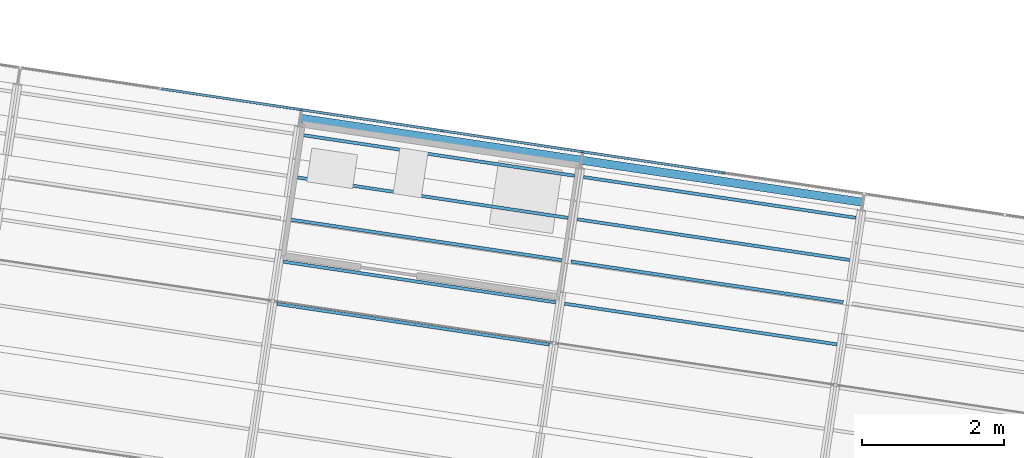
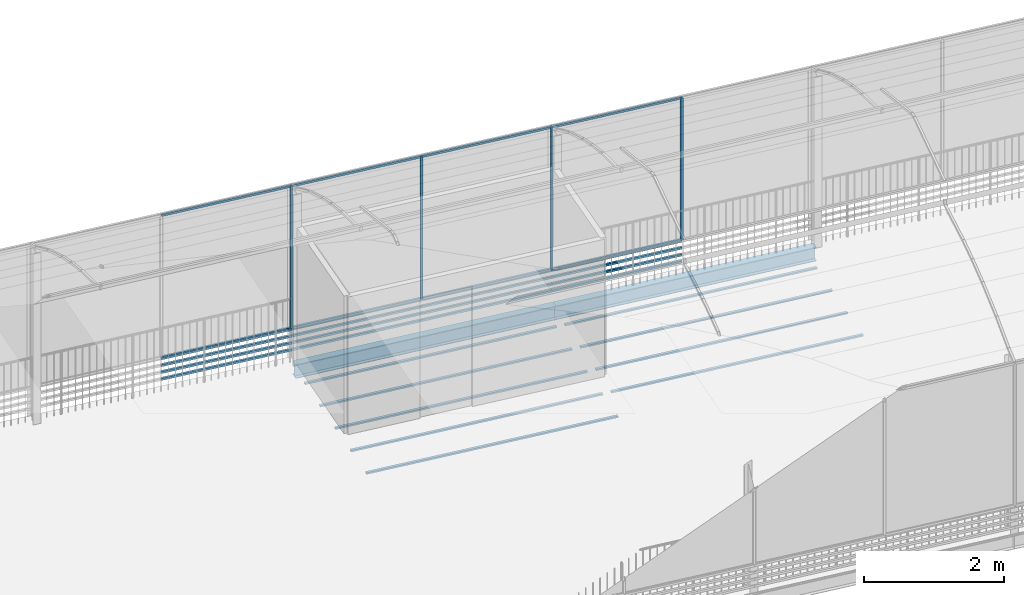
# One storey, part 9 of 34: 32 members, 11 beams.
"""IFC4 building model written with IfcOpenShell, lengths in metres."""

from ifc_helpers import new_model, si_unit, direction, frame, origin_with_axes, place, context, subcontext, project, spatial, polyline, rectangle, i_section, outline, extrude, material, material_profile, profile_set, profile_usage, type_object, element, save


model = new_model("IFC4")

# Units and contexts
model_context = context("Model", 3, precision=1e-05, world=origin_with_axes(), true_north=direction((0.0, 1.0)))
body_context = subcontext(model_context, "Body", "Model", "MODEL_VIEW")
ifc_project = project(units=[si_unit("AREAUNIT", "SQUARE_METRE"), si_unit("VOLUMEUNIT", "CUBIC_METRE"), si_unit("LENGTHUNIT", "METRE")], contexts=[model_context])

# Site, building, storey
site_placement = place(None, origin_with_axes())
site = spatial("IfcSite", under=ifc_project, at=site_placement, Name="Lares · Rua das Mercês · artigo 4771")
building_placement = place(site_placement, frame((15.0, 9.7, 14.65), z_axis=(0.0, 0.0, 1.0), x_axis=(0.989015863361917, -0.147809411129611, 0.0)))
building = spatial("IfcBuilding", under=site, at=building_placement, Name="Casa Sobreposta")
storey_placement = place(building_placement, frame((0.0, 0.0, 3.24), z_axis=(0.0, 0.0, 1.0), x_axis=(1.0, 0.0, 0.0)))
storey = spatial("IfcBuildingStorey", under=building, at=storey_placement, Name="01 · Jardim de inverno", Elevation=17.89)

# Beams
ifc_material_1 = material(Name="Aço pintado / Stahl lackiert", Category="steel")
ifc_material_profile_1 = material_profile(ifc_material_1, i_section(OverallWidth=0.12, OverallDepth=0.24, WebThickness=0.0062, FlangeThickness=0.0098))
ifc_profile_set_1 = profile_set([ifc_material_profile_1], Name="IPE240")
ifc_profile_usage_1 = profile_usage(ifc_profile_set_1)
beam_type = type_object("IfcBeamType", Name="IPE240 / steel", PredefinedType="NOTDEFINED", material=ifc_profile_set_1)
beam_1_placement = place(storey_placement, frame((8.0, 6.28, -0.152), z_axis=(1.0, 0.0, 0.0), x_axis=(0.0, -1.0, 0.0)))
element("IfcBeam", 1, at=beam_1_placement, inside=storey, type_object=beam_type, material=ifc_profile_usage_1, Name="Viga longitudinal 8 / 6.28", context=body_context, shape_type="SweptSolid", body=[
    extrude(i_section(OverallWidth=0.12, OverallDepth=0.24, WebThickness=0.0062, FlangeThickness=0.0098), origin_with_axes(), (0.0, 0.0, 1.0), 4.0),
])
ifc_profile_usage_2 = profile_usage(ifc_profile_set_1)
beam_2_placement = place(storey_placement, frame((12.0, 6.28, -0.152), z_axis=(1.0, 0.0, 0.0), x_axis=(0.0, -1.0, 0.0)))
element("IfcBeam", 2, at=beam_2_placement, inside=storey, type_object=beam_type, material=ifc_profile_usage_2, Name="Viga longitudinal 12 / 6.28", context=body_context, shape_type="SweptSolid", body=[
    extrude(i_section(OverallWidth=0.12, OverallDepth=0.24, WebThickness=0.0062, FlangeThickness=0.0098), origin_with_axes(), (0.0, 0.0, 1.0), 4.0),
])

# Members
ifc_material_profile_2 = material_profile(ifc_material_1, rectangle(XDim=0.035, YDim=0.035))
ifc_profile_set_2 = profile_set([ifc_material_profile_2], Name="R0.035")
ifc_profile_usage_3 = profile_usage(ifc_profile_set_2)
member_type = type_object("IfcMemberType", Name="R0.035 / steel", PredefinedType="NOTDEFINED", material=ifc_profile_set_2)
member_1_placement = place(storey_placement, frame((8.0, 6.4, 0.5), z_axis=(0.0, 0.0, 1.0), x_axis=(1.0, 0.0, 0.0)))
element("IfcMember", 3, at=member_1_placement, inside=storey, type_object=member_type, material=ifc_profile_usage_3, context=body_context, shape_type="SweptSolid", body=[
    extrude(rectangle(XDim=0.035, YDim=0.035), origin_with_axes(), (0.0, 0.0, 1.0), 2.48),
])
ifc_profile_usage_4 = profile_usage(ifc_profile_set_2)
member_2_placement = place(storey_placement, frame((6.0, 6.4, 0.5), z_axis=(1.0, 0.0, 0.0), x_axis=(0.0, -1.0, 0.0)))
element("IfcMember", 4, at=member_2_placement, inside=storey, type_object=member_type, material=ifc_profile_usage_4, Name="Estufa norte 4 · travessa", context=body_context, shape_type="SweptSolid", body=[
    extrude(rectangle(XDim=0.035, YDim=0.035), origin_with_axes(), (0.0, 0.0, 1.0), 2.0),
])
ifc_profile_usage_5 = profile_usage(ifc_profile_set_2)
member_3_placement = place(storey_placement, frame((6.0, 6.4, 2.98), z_axis=(1.0, 0.0, 0.0), x_axis=(0.0, -1.0, 0.0)))
element("IfcMember", 5, at=member_3_placement, inside=storey, type_object=member_type, material=ifc_profile_usage_5, Name="Estufa norte 4 · travessa", context=body_context, shape_type="SweptSolid", body=[
    extrude(rectangle(XDim=0.035, YDim=0.035), origin_with_axes(), (0.0, 0.0, 1.0), 2.0),
])
ifc_profile_usage_6 = profile_usage(ifc_profile_set_2)
member_4_placement = place(storey_placement, frame((6.0, 6.4, 0.12), z_axis=(1.0, 0.0, 0.0), x_axis=(0.0, -1.0, 0.0)))
element("IfcMember", 6, at=member_4_placement, inside=storey, type_object=member_type, material=ifc_profile_usage_6, Name="Entrada de ar norte 4", context=body_context, shape_type="SweptSolid", body=[
    extrude(rectangle(XDim=0.035, YDim=0.035), origin_with_axes(), (0.0, 0.0, 1.0), 2.0),
])
ifc_profile_usage_7 = profile_usage(ifc_profile_set_2)
member_5_placement = place(storey_placement, frame((6.0, 6.4, 0.24), z_axis=(1.0, 0.0, 0.0), x_axis=(0.0, -1.0, 0.0)))
element("IfcMember", 7, at=member_5_placement, inside=storey, type_object=member_type, material=ifc_profile_usage_7, Name="Entrada de ar norte 4", context=body_context, shape_type="SweptSolid", body=[
    extrude(rectangle(XDim=0.035, YDim=0.035), origin_with_axes(), (0.0, 0.0, 1.0), 2.0),
])
ifc_profile_usage_8 = profile_usage(ifc_profile_set_2)
member_6_placement = place(storey_placement, frame((6.0, 6.4, 0.36), z_axis=(1.0, 0.0, 0.0), x_axis=(0.0, -1.0, 0.0)))
element("IfcMember", 8, at=member_6_placement, inside=storey, type_object=member_type, material=ifc_profile_usage_8, Name="Entrada de ar norte 4", context=body_context, shape_type="SweptSolid", body=[
    extrude(rectangle(XDim=0.035, YDim=0.035), origin_with_axes(), (0.0, 0.0, 1.0), 2.0),
])
ifc_profile_usage_9 = profile_usage(ifc_profile_set_2)
member_7_placement = place(storey_placement, frame((6.0, 6.4, 0.48), z_axis=(1.0, 0.0, 0.0), x_axis=(0.0, -1.0, 0.0)))
element("IfcMember", 9, at=member_7_placement, inside=storey, type_object=member_type, material=ifc_profile_usage_9, Name="Entrada de ar norte 4", context=body_context, shape_type="SweptSolid", body=[
    extrude(rectangle(XDim=0.035, YDim=0.035), origin_with_axes(), (0.0, 0.0, 1.0), 2.0),
])
ifc_profile_usage_10 = profile_usage(ifc_profile_set_2)
member_8_placement = place(storey_placement, frame((8.0, 6.4, 0.5), z_axis=(0.0, 0.0, 1.0), x_axis=(1.0, 0.0, 0.0)))
element("IfcMember", 10, at=member_8_placement, inside=storey, type_object=member_type, material=ifc_profile_usage_10, context=body_context, shape_type="SweptSolid", body=[
    extrude(rectangle(XDim=0.035, YDim=0.035), origin_with_axes(), (0.0, 0.0, 1.0), 2.48),
])
ifc_profile_usage_11 = profile_usage(ifc_profile_set_2)
member_9_placement = place(storey_placement, frame((10.0, 6.4, 0.5), z_axis=(0.0, 0.0, 1.0), x_axis=(1.0, 0.0, 0.0)))
element("IfcMember", 11, at=member_9_placement, inside=storey, type_object=member_type, material=ifc_profile_usage_11, context=body_context, shape_type="SweptSolid", body=[
    extrude(rectangle(XDim=0.035, YDim=0.035), origin_with_axes(), (0.0, 0.0, 1.0), 2.48),
])
ifc_profile_usage_12 = profile_usage(ifc_profile_set_2)
member_10_placement = place(storey_placement, frame((8.0, 6.4, 0.5), z_axis=(1.0, 0.0, 0.0), x_axis=(0.0, -1.0, 0.0)))
element("IfcMember", 12, at=member_10_placement, inside=storey, type_object=member_type, material=ifc_profile_usage_12, Name="Estufa norte 5 · travessa", context=body_context, shape_type="SweptSolid", body=[
    extrude(rectangle(XDim=0.035, YDim=0.035), origin_with_axes(), (0.0, 0.0, 1.0), 2.0),
])
ifc_profile_usage_13 = profile_usage(ifc_profile_set_2)
member_11_placement = place(storey_placement, frame((8.0, 6.4, 2.98), z_axis=(1.0, 0.0, 0.0), x_axis=(0.0, -1.0, 0.0)))
element("IfcMember", 13, at=member_11_placement, inside=storey, type_object=member_type, material=ifc_profile_usage_13, Name="Estufa norte 5 · travessa", context=body_context, shape_type="SweptSolid", body=[
    extrude(rectangle(XDim=0.035, YDim=0.035), origin_with_axes(), (0.0, 0.0, 1.0), 2.0),
])
ifc_profile_usage_14 = profile_usage(ifc_profile_set_2)
member_12_placement = place(storey_placement, frame((8.0, 6.4, 0.12), z_axis=(1.0, 0.0, 0.0), x_axis=(0.0, -1.0, 0.0)))
element("IfcMember", 14, at=member_12_placement, inside=storey, type_object=member_type, material=ifc_profile_usage_14, Name="Entrada de ar norte 5", context=body_context, shape_type="SweptSolid", body=[
    extrude(rectangle(XDim=0.035, YDim=0.035), origin_with_axes(), (0.0, 0.0, 1.0), 2.0),
])
ifc_profile_usage_15 = profile_usage(ifc_profile_set_2)
member_13_placement = place(storey_placement, frame((8.0, 6.4, 0.24), z_axis=(1.0, 0.0, 0.0), x_axis=(0.0, -1.0, 0.0)))
element("IfcMember", 15, at=member_13_placement, inside=storey, type_object=member_type, material=ifc_profile_usage_15, Name="Entrada de ar norte 5", context=body_context, shape_type="SweptSolid", body=[
    extrude(rectangle(XDim=0.035, YDim=0.035), origin_with_axes(), (0.0, 0.0, 1.0), 2.0),
])
ifc_profile_usage_16 = profile_usage(ifc_profile_set_2)
member_14_placement = place(storey_placement, frame((8.0, 6.4, 0.36), z_axis=(1.0, 0.0, 0.0), x_axis=(0.0, -1.0, 0.0)))
element("IfcMember", 16, at=member_14_placement, inside=storey, type_object=member_type, material=ifc_profile_usage_16, Name="Entrada de ar norte 5", context=body_context, shape_type="SweptSolid", body=[
    extrude(rectangle(XDim=0.035, YDim=0.035), origin_with_axes(), (0.0, 0.0, 1.0), 2.0),
])
ifc_profile_usage_17 = profile_usage(ifc_profile_set_2)
member_15_placement = place(storey_placement, frame((8.0, 6.4, 0.48), z_axis=(1.0, 0.0, 0.0), x_axis=(0.0, -1.0, 0.0)))
element("IfcMember", 17, at=member_15_placement, inside=storey, type_object=member_type, material=ifc_profile_usage_17, Name="Entrada de ar norte 5", context=body_context, shape_type="SweptSolid", body=[
    extrude(rectangle(XDim=0.035, YDim=0.035), origin_with_axes(), (0.0, 0.0, 1.0), 2.0),
])
ifc_profile_usage_18 = profile_usage(ifc_profile_set_2)
member_16_placement = place(storey_placement, frame((10.0, 6.4, 0.5), z_axis=(0.0, 0.0, 1.0), x_axis=(1.0, 0.0, 0.0)))
element("IfcMember", 18, at=member_16_placement, inside=storey, type_object=member_type, material=ifc_profile_usage_18, context=body_context, shape_type="SweptSolid", body=[
    extrude(rectangle(XDim=0.035, YDim=0.035), origin_with_axes(), (0.0, 0.0, 1.0), 2.48),
])
ifc_profile_usage_19 = profile_usage(ifc_profile_set_2)
member_17_placement = place(storey_placement, frame((12.0, 6.4, 0.5), z_axis=(0.0, 0.0, 1.0), x_axis=(1.0, 0.0, 0.0)))
element("IfcMember", 19, at=member_17_placement, inside=storey, type_object=member_type, material=ifc_profile_usage_19, context=body_context, shape_type="SweptSolid", body=[
    extrude(rectangle(XDim=0.035, YDim=0.035), origin_with_axes(), (0.0, 0.0, 1.0), 2.48),
])
ifc_profile_usage_20 = profile_usage(ifc_profile_set_2)
member_18_placement = place(storey_placement, frame((10.0, 6.4, 0.5), z_axis=(1.0, 0.0, 0.0), x_axis=(0.0, -1.0, 0.0)))
element("IfcMember", 20, at=member_18_placement, inside=storey, type_object=member_type, material=ifc_profile_usage_20, Name="Estufa norte 6 · travessa", context=body_context, shape_type="SweptSolid", body=[
    extrude(rectangle(XDim=0.035, YDim=0.035), origin_with_axes(), (0.0, 0.0, 1.0), 2.0),
])
ifc_profile_usage_21 = profile_usage(ifc_profile_set_2)
member_19_placement = place(storey_placement, frame((10.0, 6.4, 2.98), z_axis=(1.0, 0.0, 0.0), x_axis=(0.0, -1.0, 0.0)))
element("IfcMember", 21, at=member_19_placement, inside=storey, type_object=member_type, material=ifc_profile_usage_21, Name="Estufa norte 6 · travessa", context=body_context, shape_type="SweptSolid", body=[
    extrude(rectangle(XDim=0.035, YDim=0.035), origin_with_axes(), (0.0, 0.0, 1.0), 2.0),
])
ifc_profile_usage_22 = profile_usage(ifc_profile_set_2)
member_20_placement = place(storey_placement, frame((10.0, 6.4, 0.12), z_axis=(1.0, 0.0, 0.0), x_axis=(0.0, -1.0, 0.0)))
element("IfcMember", 22, at=member_20_placement, inside=storey, type_object=member_type, material=ifc_profile_usage_22, Name="Entrada de ar norte 6", context=body_context, shape_type="SweptSolid", body=[
    extrude(rectangle(XDim=0.035, YDim=0.035), origin_with_axes(), (0.0, 0.0, 1.0), 2.0),
])
ifc_profile_usage_23 = profile_usage(ifc_profile_set_2)
member_21_placement = place(storey_placement, frame((10.0, 6.4, 0.24), z_axis=(1.0, 0.0, 0.0), x_axis=(0.0, -1.0, 0.0)))
element("IfcMember", 23, at=member_21_placement, inside=storey, type_object=member_type, material=ifc_profile_usage_23, Name="Entrada de ar norte 6", context=body_context, shape_type="SweptSolid", body=[
    extrude(rectangle(XDim=0.035, YDim=0.035), origin_with_axes(), (0.0, 0.0, 1.0), 2.0),
])
ifc_profile_usage_24 = profile_usage(ifc_profile_set_2)
member_22_placement = place(storey_placement, frame((10.0, 6.4, 0.36), z_axis=(1.0, 0.0, 0.0), x_axis=(0.0, -1.0, 0.0)))
element("IfcMember", 24, at=member_22_placement, inside=storey, type_object=member_type, material=ifc_profile_usage_24, Name="Entrada de ar norte 6", context=body_context, shape_type="SweptSolid", body=[
    extrude(rectangle(XDim=0.035, YDim=0.035), origin_with_axes(), (0.0, 0.0, 1.0), 2.0),
])
ifc_profile_usage_25 = profile_usage(ifc_profile_set_2)
member_23_placement = place(storey_placement, frame((10.0, 6.4, 0.48), z_axis=(1.0, 0.0, 0.0), x_axis=(0.0, -1.0, 0.0)))
element("IfcMember", 25, at=member_23_placement, inside=storey, type_object=member_type, material=ifc_profile_usage_25, Name="Entrada de ar norte 6", context=body_context, shape_type="SweptSolid", body=[
    extrude(rectangle(XDim=0.035, YDim=0.035), origin_with_axes(), (0.0, 0.0, 1.0), 2.0),
])
ifc_profile_usage_26 = profile_usage(ifc_profile_set_2)
member_24_placement = place(storey_placement, frame((12.0, 6.4, 0.5), z_axis=(0.0, 0.0, 1.0), x_axis=(1.0, 0.0, 0.0)))
element("IfcMember", 26, at=member_24_placement, inside=storey, type_object=member_type, material=ifc_profile_usage_26, context=body_context, shape_type="SweptSolid", body=[
    extrude(rectangle(XDim=0.035, YDim=0.035), origin_with_axes(), (0.0, 0.0, 1.0), 2.48),
])
ifc_profile_usage_27 = profile_usage(ifc_profile_set_2)
member_25_placement = place(storey_placement, frame((14.0, 6.4, 0.5), z_axis=(0.0, 0.0, 1.0), x_axis=(1.0, 0.0, 0.0)))
element("IfcMember", 27, at=member_25_placement, inside=storey, type_object=member_type, material=ifc_profile_usage_27, context=body_context, shape_type="SweptSolid", body=[
    extrude(rectangle(XDim=0.035, YDim=0.035), origin_with_axes(), (0.0, 0.0, 1.0), 2.48),
])
ifc_profile_usage_28 = profile_usage(ifc_profile_set_2)
member_26_placement = place(storey_placement, frame((12.0, 6.4, 0.5), z_axis=(1.0, 0.0, 0.0), x_axis=(0.0, -1.0, 0.0)))
element("IfcMember", 28, at=member_26_placement, inside=storey, type_object=member_type, material=ifc_profile_usage_28, Name="Estufa norte 7 · travessa", context=body_context, shape_type="SweptSolid", body=[
    extrude(rectangle(XDim=0.035, YDim=0.035), origin_with_axes(), (0.0, 0.0, 1.0), 2.0),
])
ifc_profile_usage_29 = profile_usage(ifc_profile_set_2)
member_27_placement = place(storey_placement, frame((12.0, 6.4, 2.98), z_axis=(1.0, 0.0, 0.0), x_axis=(0.0, -1.0, 0.0)))
element("IfcMember", 29, at=member_27_placement, inside=storey, type_object=member_type, material=ifc_profile_usage_29, Name="Estufa norte 7 · travessa", context=body_context, shape_type="SweptSolid", body=[
    extrude(rectangle(XDim=0.035, YDim=0.035), origin_with_axes(), (0.0, 0.0, 1.0), 2.0),
])
ifc_profile_usage_30 = profile_usage(ifc_profile_set_2)
member_28_placement = place(storey_placement, frame((12.0, 6.4, 0.12), z_axis=(1.0, 0.0, 0.0), x_axis=(0.0, -1.0, 0.0)))
element("IfcMember", 30, at=member_28_placement, inside=storey, type_object=member_type, material=ifc_profile_usage_30, Name="Entrada de ar norte 7", context=body_context, shape_type="SweptSolid", body=[
    extrude(rectangle(XDim=0.035, YDim=0.035), origin_with_axes(), (0.0, 0.0, 1.0), 2.0),
])
ifc_profile_usage_31 = profile_usage(ifc_profile_set_2)
member_29_placement = place(storey_placement, frame((12.0, 6.4, 0.24), z_axis=(1.0, 0.0, 0.0), x_axis=(0.0, -1.0, 0.0)))
element("IfcMember", 31, at=member_29_placement, inside=storey, type_object=member_type, material=ifc_profile_usage_31, Name="Entrada de ar norte 7", context=body_context, shape_type="SweptSolid", body=[
    extrude(rectangle(XDim=0.035, YDim=0.035), origin_with_axes(), (0.0, 0.0, 1.0), 2.0),
])
ifc_profile_usage_32 = profile_usage(ifc_profile_set_2)
member_30_placement = place(storey_placement, frame((12.0, 6.4, 0.36), z_axis=(1.0, 0.0, 0.0), x_axis=(0.0, -1.0, 0.0)))
element("IfcMember", 32, at=member_30_placement, inside=storey, type_object=member_type, material=ifc_profile_usage_32, Name="Entrada de ar norte 7", context=body_context, shape_type="SweptSolid", body=[
    extrude(rectangle(XDim=0.035, YDim=0.035), origin_with_axes(), (0.0, 0.0, 1.0), 2.0),
])
ifc_profile_usage_33 = profile_usage(ifc_profile_set_2)
member_31_placement = place(storey_placement, frame((12.0, 6.4, 0.48), z_axis=(1.0, 0.0, 0.0), x_axis=(0.0, -1.0, 0.0)))
element("IfcMember", 33, at=member_31_placement, inside=storey, type_object=member_type, material=ifc_profile_usage_33, Name="Entrada de ar norte 7", context=body_context, shape_type="SweptSolid", body=[
    extrude(rectangle(XDim=0.035, YDim=0.035), origin_with_axes(), (0.0, 0.0, 1.0), 2.0),
])
ifc_profile_usage_34 = profile_usage(ifc_profile_set_2)
member_32_placement = place(storey_placement, frame((14.0, 6.4, 0.5), z_axis=(0.0, 0.0, 1.0), x_axis=(1.0, 0.0, 0.0)))
element("IfcMember", 34, at=member_32_placement, inside=storey, type_object=member_type, material=ifc_profile_usage_34, context=body_context, shape_type="SweptSolid", body=[
    extrude(rectangle(XDim=0.035, YDim=0.035), origin_with_axes(), (0.0, 0.0, 1.0), 2.48),
])

# Beams
ifc_material_2 = material(Name="Madeira / Bauholz", Category="wood")
ifc_material_profile_3 = material_profile(ifc_material_2, outline(polyline([(0.022225, -0.12), (0.022225, -0.092), (-0.022225, -0.092), (-0.022225, -0.12), (0.022225, -0.12)])))
ifc_material_3 = material(Name="OSB", Category="wood")
ifc_material_profile_4 = material_profile(ifc_material_3, outline(polyline([(0.0047625, -0.092), (0.0047625, 0.092), (-0.0047625, 0.092), (-0.0047625, -0.092), (0.0047625, -0.092)])))
ifc_material_profile_5 = material_profile(ifc_material_2, outline(polyline([(0.022225, 0.092), (0.022225, 0.12), (-0.022225, 0.12), (-0.022225, 0.092), (0.022225, 0.092)])))
ifc_profile_set_3 = profile_set([ifc_material_profile_3, ifc_material_profile_4, ifc_material_profile_5], Name="TJI240 · madeira / OSB")
ifc_profile_usage_35 = profile_usage(ifc_profile_set_3)
beam_3_placement = place(storey_placement, frame((8.065, 3.65, -0.152), z_axis=(1.0, 0.0, 0.0), x_axis=(0.0, 1.0, 0.0)))
element("IfcBeam", 35, at=beam_3_placement, inside=storey, material=ifc_profile_usage_35, Name="TJI240 · 8.065 / 3.65", context=body_context, shape_type="SweptSolid", body=[
    extrude(outline(polyline([(0.022225, -0.12), (0.022225, -0.092), (-0.022225, -0.092), (-0.022225, -0.12), (0.022225, -0.12)])), origin_with_axes(), (0.0, 0.0, 1.0), 3.87),
    extrude(outline(polyline([(0.022225, -0.12), (0.022225, -0.092), (-0.022225, -0.092), (-0.022225, -0.12), (0.022225, -0.12)])), origin_with_axes(), (0.0, 0.0, 1.0), 3.87),
    extrude(outline(polyline([(0.022225, -0.12), (0.022225, -0.092), (-0.022225, -0.092), (-0.022225, -0.12), (0.022225, -0.12)])), origin_with_axes(), (0.0, 0.0, 1.0), 3.87),
])
ifc_material_profile_6 = material_profile(ifc_material_2, outline(polyline([(0.022225, -0.12), (0.022225, -0.092), (-0.022225, -0.092), (-0.022225, -0.12), (0.022225, -0.12)])))
ifc_material_profile_7 = material_profile(ifc_material_3, outline(polyline([(0.0047625, -0.092), (0.0047625, 0.092), (-0.0047625, 0.092), (-0.0047625, -0.092), (0.0047625, -0.092)])))
ifc_material_profile_8 = material_profile(ifc_material_2, outline(polyline([(0.022225, 0.092), (0.022225, 0.12), (-0.022225, 0.12), (-0.022225, 0.092), (0.022225, 0.092)])))
ifc_profile_set_4 = profile_set([ifc_material_profile_6, ifc_material_profile_7, ifc_material_profile_8], Name="TJI240 · madeira / OSB")
ifc_profile_usage_36 = profile_usage(ifc_profile_set_4)
beam_4_placement = place(storey_placement, frame((8.065, 4.25, -0.152), z_axis=(1.0, 0.0, 0.0), x_axis=(0.0, 1.0, 0.0)))
element("IfcBeam", 36, at=beam_4_placement, inside=storey, material=ifc_profile_usage_36, Name="TJI240 · 8.065 / 4.25", context=body_context, shape_type="SweptSolid", body=[
    extrude(outline(polyline([(0.022225, -0.12), (0.022225, -0.092), (-0.022225, -0.092), (-0.022225, -0.12), (0.022225, -0.12)])), origin_with_axes(), (0.0, 0.0, 1.0), 3.87),
    extrude(outline(polyline([(0.022225, -0.12), (0.022225, -0.092), (-0.022225, -0.092), (-0.022225, -0.12), (0.022225, -0.12)])), origin_with_axes(), (0.0, 0.0, 1.0), 3.87),
    extrude(outline(polyline([(0.022225, -0.12), (0.022225, -0.092), (-0.022225, -0.092), (-0.022225, -0.12), (0.022225, -0.12)])), origin_with_axes(), (0.0, 0.0, 1.0), 3.87),
])
ifc_material_profile_9 = material_profile(ifc_material_2, outline(polyline([(0.022225, -0.12), (0.022225, -0.092), (-0.022225, -0.092), (-0.022225, -0.12), (0.022225, -0.12)])))
ifc_material_profile_10 = material_profile(ifc_material_3, outline(polyline([(0.0047625, -0.092), (0.0047625, 0.092), (-0.0047625, 0.092), (-0.0047625, -0.092), (0.0047625, -0.092)])))
ifc_material_profile_11 = material_profile(ifc_material_2, outline(polyline([(0.022225, 0.092), (0.022225, 0.12), (-0.022225, 0.12), (-0.022225, 0.092), (0.022225, 0.092)])))
ifc_profile_set_5 = profile_set([ifc_material_profile_9, ifc_material_profile_10, ifc_material_profile_11], Name="TJI240 · madeira / OSB")
ifc_profile_usage_37 = profile_usage(ifc_profile_set_5)
beam_5_placement = place(storey_placement, frame((12.065, 4.25, -0.152), z_axis=(1.0, 0.0, 0.0), x_axis=(0.0, 1.0, 0.0)))
element("IfcBeam", 37, at=beam_5_placement, inside=storey, material=ifc_profile_usage_37, Name="TJI240 · 12.065 / 4.25", context=body_context, shape_type="SweptSolid", body=[
    extrude(outline(polyline([(0.022225, -0.12), (0.022225, -0.092), (-0.022225, -0.092), (-0.022225, -0.12), (0.022225, -0.12)])), origin_with_axes(), (0.0, 0.0, 1.0), 3.87),
    extrude(outline(polyline([(0.022225, -0.12), (0.022225, -0.092), (-0.022225, -0.092), (-0.022225, -0.12), (0.022225, -0.12)])), origin_with_axes(), (0.0, 0.0, 1.0), 3.87),
    extrude(outline(polyline([(0.022225, -0.12), (0.022225, -0.092), (-0.022225, -0.092), (-0.022225, -0.12), (0.022225, -0.12)])), origin_with_axes(), (0.0, 0.0, 1.0), 3.87),
])
ifc_material_profile_12 = material_profile(ifc_material_2, outline(polyline([(0.022225, -0.12), (0.022225, -0.092), (-0.022225, -0.092), (-0.022225, -0.12), (0.022225, -0.12)])))
ifc_material_profile_13 = material_profile(ifc_material_3, outline(polyline([(0.0047625, -0.092), (0.0047625, 0.092), (-0.0047625, 0.092), (-0.0047625, -0.092), (0.0047625, -0.092)])))
ifc_material_profile_14 = material_profile(ifc_material_2, outline(polyline([(0.022225, 0.092), (0.022225, 0.12), (-0.022225, 0.12), (-0.022225, 0.092), (0.022225, 0.092)])))
ifc_profile_set_6 = profile_set([ifc_material_profile_12, ifc_material_profile_13, ifc_material_profile_14], Name="TJI240 · madeira / OSB")
ifc_profile_usage_38 = profile_usage(ifc_profile_set_6)
beam_6_placement = place(storey_placement, frame((8.065, 4.85, -0.152), z_axis=(1.0, 0.0, 0.0), x_axis=(0.0, 1.0, 0.0)))
element("IfcBeam", 38, at=beam_6_placement, inside=storey, material=ifc_profile_usage_38, Name="TJI240 · 8.065 / 4.85", context=body_context, shape_type="SweptSolid", body=[
    extrude(outline(polyline([(0.022225, -0.12), (0.022225, -0.092), (-0.022225, -0.092), (-0.022225, -0.12), (0.022225, -0.12)])), origin_with_axes(), (0.0, 0.0, 1.0), 3.87),
    extrude(outline(polyline([(0.022225, -0.12), (0.022225, -0.092), (-0.022225, -0.092), (-0.022225, -0.12), (0.022225, -0.12)])), origin_with_axes(), (0.0, 0.0, 1.0), 3.87),
    extrude(outline(polyline([(0.022225, -0.12), (0.022225, -0.092), (-0.022225, -0.092), (-0.022225, -0.12), (0.022225, -0.12)])), origin_with_axes(), (0.0, 0.0, 1.0), 3.87),
])
ifc_material_profile_15 = material_profile(ifc_material_2, outline(polyline([(0.022225, -0.12), (0.022225, -0.092), (-0.022225, -0.092), (-0.022225, -0.12), (0.022225, -0.12)])))
ifc_material_profile_16 = material_profile(ifc_material_3, outline(polyline([(0.0047625, -0.092), (0.0047625, 0.092), (-0.0047625, 0.092), (-0.0047625, -0.092), (0.0047625, -0.092)])))
ifc_material_profile_17 = material_profile(ifc_material_2, outline(polyline([(0.022225, 0.092), (0.022225, 0.12), (-0.022225, 0.12), (-0.022225, 0.092), (0.022225, 0.092)])))
ifc_profile_set_7 = profile_set([ifc_material_profile_15, ifc_material_profile_16, ifc_material_profile_17], Name="TJI240 · madeira / OSB")
ifc_profile_usage_39 = profile_usage(ifc_profile_set_7)
beam_7_placement = place(storey_placement, frame((12.065, 4.85, -0.152), z_axis=(1.0, 0.0, 0.0), x_axis=(0.0, 1.0, 0.0)))
element("IfcBeam", 39, at=beam_7_placement, inside=storey, material=ifc_profile_usage_39, Name="TJI240 · 12.065 / 4.85", context=body_context, shape_type="SweptSolid", body=[
    extrude(outline(polyline([(0.022225, -0.12), (0.022225, -0.092), (-0.022225, -0.092), (-0.022225, -0.12), (0.022225, -0.12)])), origin_with_axes(), (0.0, 0.0, 1.0), 3.87),
    extrude(outline(polyline([(0.022225, -0.12), (0.022225, -0.092), (-0.022225, -0.092), (-0.022225, -0.12), (0.022225, -0.12)])), origin_with_axes(), (0.0, 0.0, 1.0), 3.87),
    extrude(outline(polyline([(0.022225, -0.12), (0.022225, -0.092), (-0.022225, -0.092), (-0.022225, -0.12), (0.022225, -0.12)])), origin_with_axes(), (0.0, 0.0, 1.0), 3.87),
])
ifc_material_profile_18 = material_profile(ifc_material_2, outline(polyline([(0.022225, -0.12), (0.022225, -0.092), (-0.022225, -0.092), (-0.022225, -0.12), (0.022225, -0.12)])))
ifc_material_profile_19 = material_profile(ifc_material_3, outline(polyline([(0.0047625, -0.092), (0.0047625, 0.092), (-0.0047625, 0.092), (-0.0047625, -0.092), (0.0047625, -0.092)])))
ifc_material_profile_20 = material_profile(ifc_material_2, outline(polyline([(0.022225, 0.092), (0.022225, 0.12), (-0.022225, 0.12), (-0.022225, 0.092), (0.022225, 0.092)])))
ifc_profile_set_8 = profile_set([ifc_material_profile_18, ifc_material_profile_19, ifc_material_profile_20], Name="TJI240 · madeira / OSB")
ifc_profile_usage_40 = profile_usage(ifc_profile_set_8)
beam_8_placement = place(storey_placement, frame((8.065, 5.45, -0.152), z_axis=(1.0, 0.0, 0.0), x_axis=(0.0, 1.0, 0.0)))
element("IfcBeam", 40, at=beam_8_placement, inside=storey, material=ifc_profile_usage_40, Name="TJI240 · 8.065 / 5.45", context=body_context, shape_type="SweptSolid", body=[
    extrude(outline(polyline([(0.022225, -0.12), (0.022225, -0.092), (-0.022225, -0.092), (-0.022225, -0.12), (0.022225, -0.12)])), origin_with_axes(), (0.0, 0.0, 1.0), 3.87),
    extrude(outline(polyline([(0.022225, -0.12), (0.022225, -0.092), (-0.022225, -0.092), (-0.022225, -0.12), (0.022225, -0.12)])), origin_with_axes(), (0.0, 0.0, 1.0), 3.87),
    extrude(outline(polyline([(0.022225, -0.12), (0.022225, -0.092), (-0.022225, -0.092), (-0.022225, -0.12), (0.022225, -0.12)])), origin_with_axes(), (0.0, 0.0, 1.0), 3.87),
])
ifc_material_profile_21 = material_profile(ifc_material_2, outline(polyline([(0.022225, -0.12), (0.022225, -0.092), (-0.022225, -0.092), (-0.022225, -0.12), (0.022225, -0.12)])))
ifc_material_profile_22 = material_profile(ifc_material_3, outline(polyline([(0.0047625, -0.092), (0.0047625, 0.092), (-0.0047625, 0.092), (-0.0047625, -0.092), (0.0047625, -0.092)])))
ifc_material_profile_23 = material_profile(ifc_material_2, outline(polyline([(0.022225, 0.092), (0.022225, 0.12), (-0.022225, 0.12), (-0.022225, 0.092), (0.022225, 0.092)])))
ifc_profile_set_9 = profile_set([ifc_material_profile_21, ifc_material_profile_22, ifc_material_profile_23], Name="TJI240 · madeira / OSB")
ifc_profile_usage_41 = profile_usage(ifc_profile_set_9)
beam_9_placement = place(storey_placement, frame((12.065, 5.45, -0.152), z_axis=(1.0, 0.0, 0.0), x_axis=(0.0, 1.0, 0.0)))
element("IfcBeam", 41, at=beam_9_placement, inside=storey, material=ifc_profile_usage_41, Name="TJI240 · 12.065 / 5.45", context=body_context, shape_type="SweptSolid", body=[
    extrude(outline(polyline([(0.022225, -0.12), (0.022225, -0.092), (-0.022225, -0.092), (-0.022225, -0.12), (0.022225, -0.12)])), origin_with_axes(), (0.0, 0.0, 1.0), 3.87),
    extrude(outline(polyline([(0.022225, -0.12), (0.022225, -0.092), (-0.022225, -0.092), (-0.022225, -0.12), (0.022225, -0.12)])), origin_with_axes(), (0.0, 0.0, 1.0), 3.87),
    extrude(outline(polyline([(0.022225, -0.12), (0.022225, -0.092), (-0.022225, -0.092), (-0.022225, -0.12), (0.022225, -0.12)])), origin_with_axes(), (0.0, 0.0, 1.0), 3.87),
])
ifc_material_profile_24 = material_profile(ifc_material_2, outline(polyline([(0.022225, -0.12), (0.022225, -0.092), (-0.022225, -0.092), (-0.022225, -0.12), (0.022225, -0.12)])))
ifc_material_profile_25 = material_profile(ifc_material_3, outline(polyline([(0.0047625, -0.092), (0.0047625, 0.092), (-0.0047625, 0.092), (-0.0047625, -0.092), (0.0047625, -0.092)])))
ifc_material_profile_26 = material_profile(ifc_material_2, outline(polyline([(0.022225, 0.092), (0.022225, 0.12), (-0.022225, 0.12), (-0.022225, 0.092), (0.022225, 0.092)])))
ifc_profile_set_10 = profile_set([ifc_material_profile_24, ifc_material_profile_25, ifc_material_profile_26], Name="TJI240 · madeira / OSB")
ifc_profile_usage_42 = profile_usage(ifc_profile_set_10)
beam_10_placement = place(storey_placement, frame((8.065, 6.05, -0.152), z_axis=(1.0, 0.0, 0.0), x_axis=(0.0, 1.0, 0.0)))
element("IfcBeam", 42, at=beam_10_placement, inside=storey, material=ifc_profile_usage_42, Name="TJI240 · 8.065 / 6.05", context=body_context, shape_type="SweptSolid", body=[
    extrude(outline(polyline([(0.022225, -0.12), (0.022225, -0.092), (-0.022225, -0.092), (-0.022225, -0.12), (0.022225, -0.12)])), origin_with_axes(), (0.0, 0.0, 1.0), 3.87),
    extrude(outline(polyline([(0.022225, -0.12), (0.022225, -0.092), (-0.022225, -0.092), (-0.022225, -0.12), (0.022225, -0.12)])), origin_with_axes(), (0.0, 0.0, 1.0), 3.87),
    extrude(outline(polyline([(0.022225, -0.12), (0.022225, -0.092), (-0.022225, -0.092), (-0.022225, -0.12), (0.022225, -0.12)])), origin_with_axes(), (0.0, 0.0, 1.0), 3.87),
])
ifc_material_profile_27 = material_profile(ifc_material_2, outline(polyline([(0.022225, -0.12), (0.022225, -0.092), (-0.022225, -0.092), (-0.022225, -0.12), (0.022225, -0.12)])))
ifc_material_profile_28 = material_profile(ifc_material_3, outline(polyline([(0.0047625, -0.092), (0.0047625, 0.092), (-0.0047625, 0.092), (-0.0047625, -0.092), (0.0047625, -0.092)])))
ifc_material_profile_29 = material_profile(ifc_material_2, outline(polyline([(0.022225, 0.092), (0.022225, 0.12), (-0.022225, 0.12), (-0.022225, 0.092), (0.022225, 0.092)])))
ifc_profile_set_11 = profile_set([ifc_material_profile_27, ifc_material_profile_28, ifc_material_profile_29], Name="TJI240 · madeira / OSB")
ifc_profile_usage_43 = profile_usage(ifc_profile_set_11)
beam_11_placement = place(storey_placement, frame((12.065, 6.05, -0.152), z_axis=(1.0, 0.0, 0.0), x_axis=(0.0, 1.0, 0.0)))
element("IfcBeam", 43, at=beam_11_placement, inside=storey, material=ifc_profile_usage_43, Name="TJI240 · 12.065 / 6.05", context=body_context, shape_type="SweptSolid", body=[
    extrude(outline(polyline([(0.022225, -0.12), (0.022225, -0.092), (-0.022225, -0.092), (-0.022225, -0.12), (0.022225, -0.12)])), origin_with_axes(), (0.0, 0.0, 1.0), 3.87),
    extrude(outline(polyline([(0.022225, -0.12), (0.022225, -0.092), (-0.022225, -0.092), (-0.022225, -0.12), (0.022225, -0.12)])), origin_with_axes(), (0.0, 0.0, 1.0), 3.87),
    extrude(outline(polyline([(0.022225, -0.12), (0.022225, -0.092), (-0.022225, -0.092), (-0.022225, -0.12), (0.022225, -0.12)])), origin_with_axes(), (0.0, 0.0, 1.0), 3.87),
])

save(model, "model.ifc")
